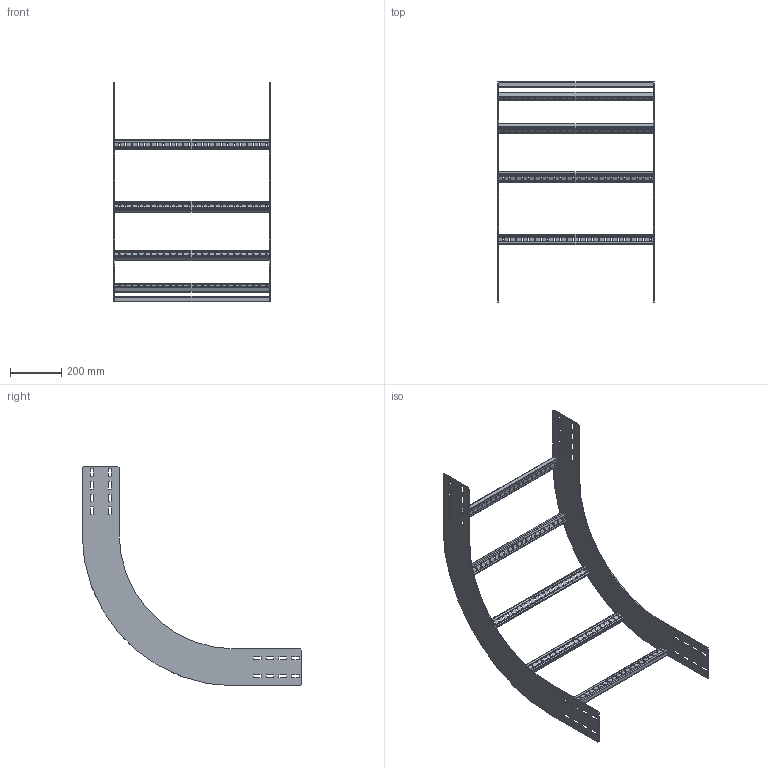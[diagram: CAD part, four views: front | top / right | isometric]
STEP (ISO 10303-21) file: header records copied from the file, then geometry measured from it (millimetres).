
FILE_DESCRIPTION(('Creo Elements/Direct Modeling STEP Export'),'2;1');
FILE_NAME('WPIR15-60-90-45.stp','2016-06-01T14:16:10',(''),(''),'PTC Creo Elements/Direct Modeling STEP processor for AP214 (Solid Model)','PTC Creo Elements/Direct Modeling 19.0C 15-Aug-2015 (C) Parametric Technology GmbH','');
FILE_SCHEMA(('AUTOMOTIVE_DESIGN { 1 0 10303 214 1 1 1 1 }'));
Length unit declared in the file: millimetre
Products named in the file (3): WPIBG150_450; WPBS60.1.1; WPIR15-60-90-45
Assembly tree (7 placements, depth 2):
  WPIR15-60-90-45
    WPBS60.1.1  x5
    WPIBG150_450  x2
Bounding box: 611 x 860 x 860 mm (x, y, z)
Volume: 1583167.7 mm3; surface area: 1393512.3 mm2
Topology: 7 solids, 7 shells, 836 faces, 2466 edges, 1644 vertices
Faces by surface type: plane 502, cylinder 334
Entity records: 7380 total; most frequent: CARTESIAN_POINT 1271, ORIENTED_EDGE 1260, DIRECTION 1208, EDGE_CURVE 630, VECTOR 494, LINE 494, VERTEX_POINT 420, AXIS2_PLACEMENT_3D 357
